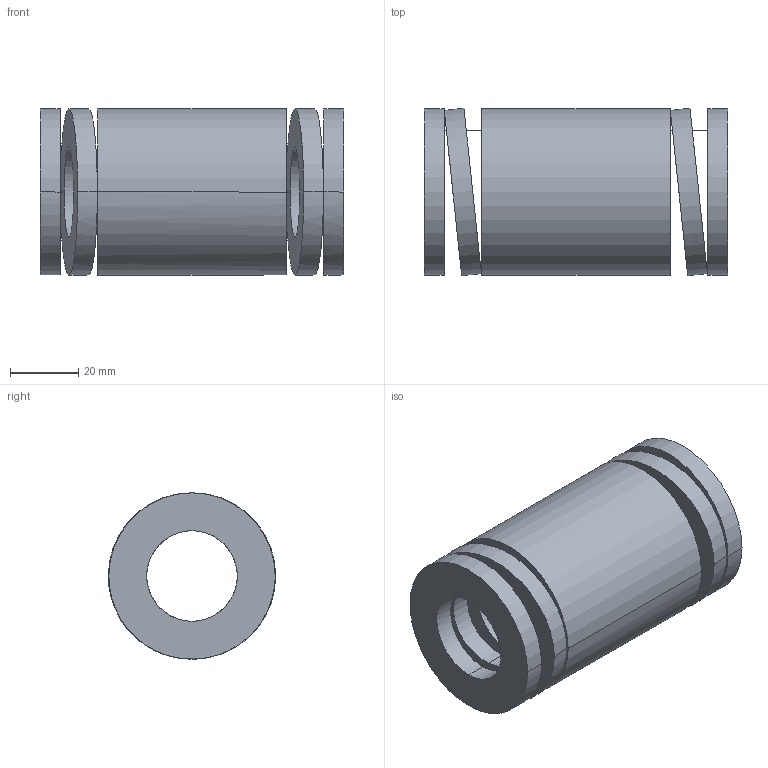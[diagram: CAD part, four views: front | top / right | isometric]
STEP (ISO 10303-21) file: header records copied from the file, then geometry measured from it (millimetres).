
FILE_DESCRIPTION(('CATIA V5 STEP Exchange'),'2;1');
FILE_NAME('C:\Users\Utente\Desktop\IO LAVORO\3D X SITO CF\X SITO\3D files 392B\392-B50-089.stp','2021-08-13T11:38:18+00:00',('none'),('none'),'CATIA Version 5 Release 20 GA (IN-10)','CATIA V5 STEP AP203','none');
FILE_SCHEMA(('CONFIG_CONTROL_DESIGN'));
Length unit declared in the file: millimetre
Products named in the file (1): 392-B50-089
Bounding box: 89 x 49.14 x 48.8 mm (x, y, z)
Volume: 103147.1 mm3; surface area: 31737.4 mm2
Topology: 1 solids, 1 shells, 38 faces, 92 edges, 64 vertices
Faces by surface type: cylinder 28, plane 10
Entity records: 1638 total; most frequent: CARTESIAN_POINT 761, ORIENTED_EDGE 184, DIRECTION 123, EDGE_CURVE 92, VERTEX_POINT 64, AXIS2_PLACEMENT_3D 58, EDGE_LOOP 56, B_SPLINE_CURVE_WITH_KNOTS 45
